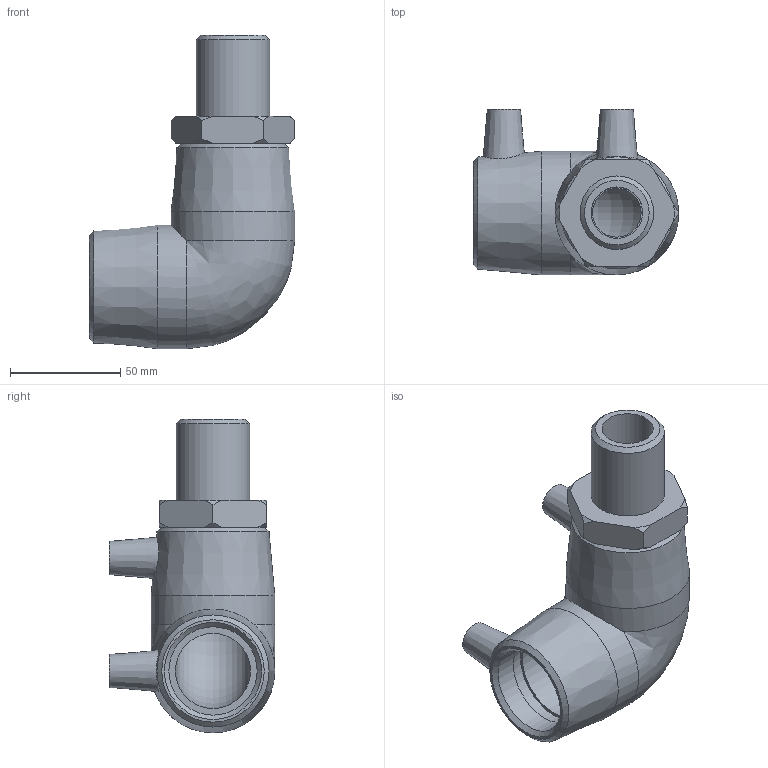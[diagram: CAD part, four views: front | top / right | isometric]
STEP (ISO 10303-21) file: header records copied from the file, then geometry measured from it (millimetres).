
FILE_DESCRIPTION(/* description */ ('PLASSON 90° ELBOW MALE TRANSITION 40 x 1"'),/* implementation_level */ '2;1');
FILE_NAME(/* name */ 'C:\Dropbox\KIMPROJECTS-Inventor\99-16-3568-Processing\ElectroFusion Fittings\02.02.20\492504\492504040010N.ipt.stp',/* time_stamp */ '2020-02-02T12:19:21+02:00',/* author */ ('KIM'),/* organization */ (''),/* preprocessor_version */ 'ST-DEVELOPER v15.6',/* originating_system */ 'Autodesk Inventor 2015',/* authorisation */ '');
FILE_SCHEMA (('AUTOMOTIVE_DESIGN { 1 0 10303 214 3 1 1 }'));
Length unit declared in the file: millimetre
Products named in the file (1): 492504040010N
Bounding box: 93 x 75 x 142 mm (x, y, z)
Volume: 223675.7 mm3; surface area: 51480.5 mm2
Topology: 1 solids, 2 shells, 59 faces, 134 edges, 87 vertices
Faces by surface type: plane 22, cone 22, cylinder 13, bspline 1, torus 1
Full cylindrical faces by diameter (mm): 4 x2, 10 x2, 22 x1, 23.274 x1, 33.249 x1, 40 x4, 56 x2
Entity records: 1514 total; most frequent: CARTESIAN_POINT 371, DIRECTION 238, ORIENTED_EDGE 190, AXIS2_PLACEMENT_3D 110, EDGE_LOOP 99, EDGE_CURVE 95, VERTEX_POINT 76, FACE_OUTER_BOUND 59
